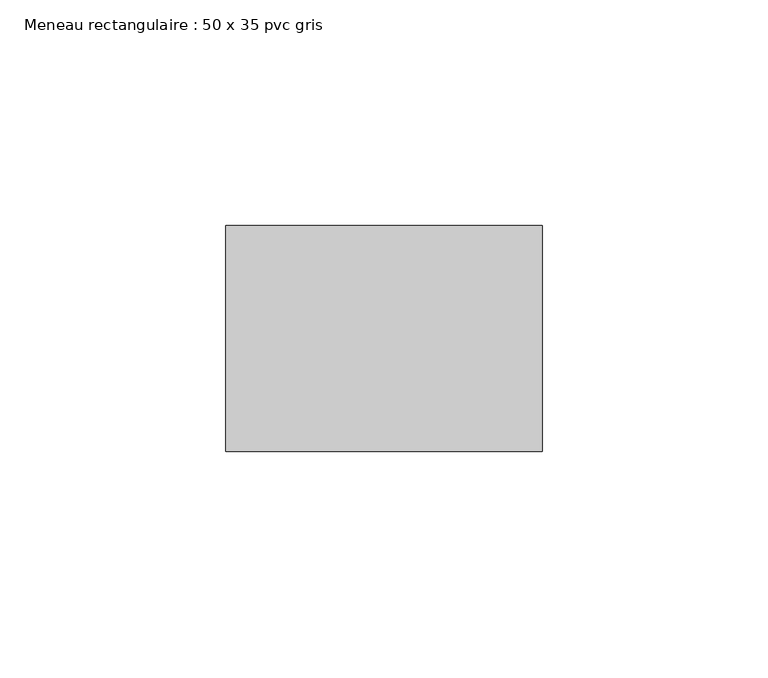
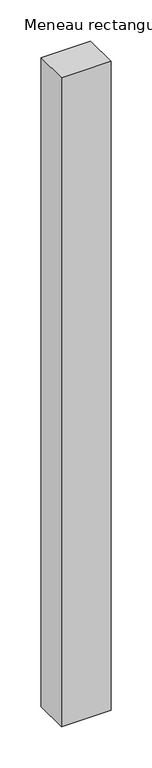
"""IFC4 building model written with IfcOpenShell, lengths in millimetres: member geometry, Meneau rectangulaire : 50 x 35 pvc gris."""

from ifc_helpers import new_model, si_unit, frame, origin, place, context, project, spatial, polyline, outline, extrude, source, transform, mapped, element, save


def meneau_rectangulaire_50_x_35_pvc_gris_5bcb7cc3(model_context):
    return source(origin(), model_context, "Body", "SweptSolid", [
        extrude(outline(polyline([(0.0, 0.0), (0.0, -50.0), (-70.0, -50.0), (-70.0, 0.0), (0.0, 0.0)])), frame((0.0, 0.0, -965.0), z_axis=(0.0, 0.0, 1.0), x_axis=(1.0, 0.0, 0.0)), (0.0, 0.0, 1.0), 965.0),
    ])


if __name__ == "__main__":
    model = new_model("IFC4")
    model_context = context("Model", 3, world=origin())
    ifc_project = project(units=[si_unit("LENGTHUNIT", "METRE", prefix="MILLI")], contexts=[model_context])
    site = spatial("IfcSite", under=ifc_project)
    building = spatial("IfcBuilding", under=site)
    placement = place(None, origin())
    meneau_rectangulaire_50_x_35_pvc_gris_shape = meneau_rectangulaire_50_x_35_pvc_gris_5bcb7cc3(model_context)
    element("IfcMember", 1, ObjectType="Meneau rectangulaire : 50 x 35 pvc gris", at=placement, inside=building, context=model_context, shape_type="MappedRepresentation", body=[
        mapped(meneau_rectangulaire_50_x_35_pvc_gris_shape, transform((0.0, 0.0, 0.0), x_axis=(1.0, 0.0, 0.0), y_axis=(0.0, 1.0, 0.0), z_axis=(0.0, 0.0, 1.0))),
    ])
    save(model, "model.ifc")
